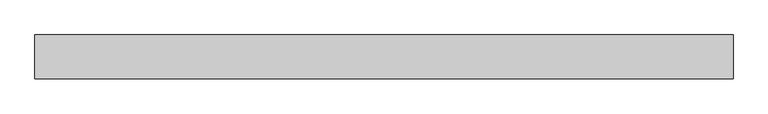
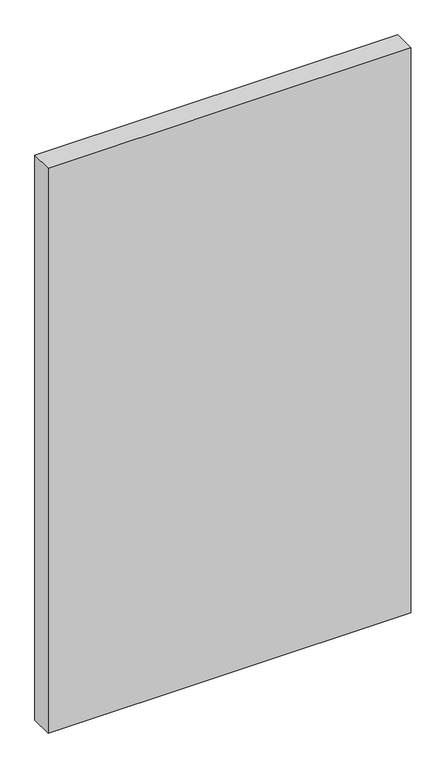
"""IFC4 building model written with IfcOpenShell, lengths in millimetres: plate geometry, システム パネルなし : なし."""

from ifc_helpers import new_model, si_unit, origin, origin_with_axes, place, context, project, spatial, polyline, outline, extrude, source, transform, mapped, element, save


def plate_15741f28(model_context):
    return source(origin(), model_context, "Body", "SweptSolid", [
        extrude(outline(polyline([(799.9999998, -50.0), (-799.9999998, -50.0), (-799.9999998, 50.0), (799.9999998, 50.0), (799.9999998, -50.0)])), origin_with_axes(), (0.0, 0.0, 1.0), 2633.0),
    ])


if __name__ == "__main__":
    model = new_model("IFC4")
    model_context = context("Model", 3, world=origin())
    ifc_project = project(units=[si_unit("LENGTHUNIT", "METRE", prefix="MILLI")], contexts=[model_context])
    site = spatial("IfcSite", under=ifc_project)
    building = spatial("IfcBuilding", under=site)
    placement = place(None, origin())
    plate_shape = plate_15741f28(model_context)
    element("IfcPlate", 1, ObjectType="システム パネルなし : なし", at=placement, inside=building, context=model_context, shape_type="MappedRepresentation", body=[
        mapped(plate_shape, transform((0.0, 0.0, 0.0), x_axis=(1.0, 0.0, 0.0), y_axis=(0.0, 1.0, 0.0), z_axis=(0.0, 0.0, 1.0))),
    ])
    save(model, "model.ifc")
